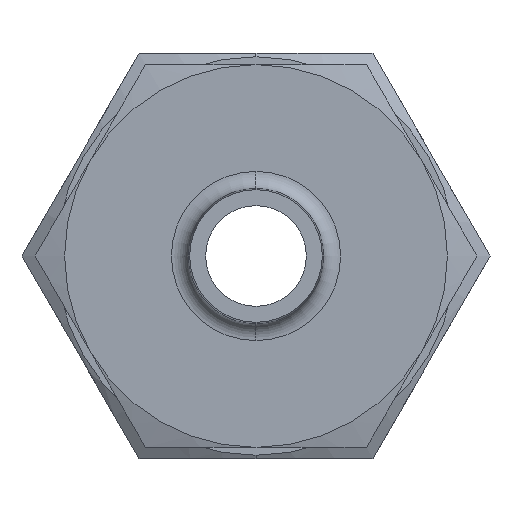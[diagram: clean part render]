
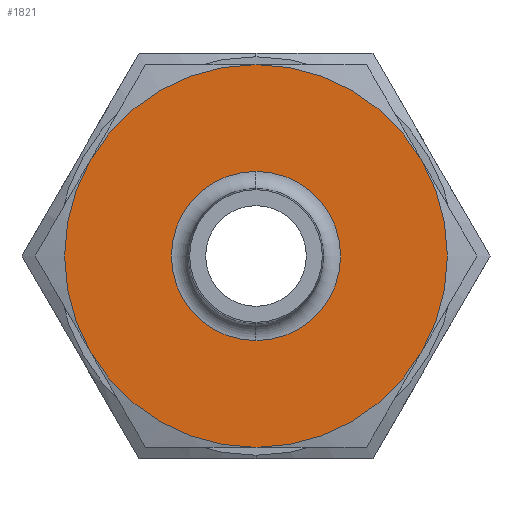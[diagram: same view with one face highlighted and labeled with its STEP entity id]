
A CAD part, left-side view. The second image highlights one B-rep face of the part: STEP entity #1821.
In plain terms, the highlighted planar face has unit normal (-1, 0, 0).
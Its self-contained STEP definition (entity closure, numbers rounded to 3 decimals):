
#88 = DIRECTION ( 'NONE',  ( 0., 0., -1. ) ) ;
#89 = DIRECTION ( 'NONE',  ( 1., 0., 0. ) ) ;
#90 = CARTESIAN_POINT ( 'NONE',  ( 0., 0., 0. ) ) ;
#91 = AXIS2_PLACEMENT_3D ( 'NONE', #90, #89, #88 ) ;
#92 = CIRCLE ( 'NONE', #91, 13.495 ) ;
#360 = CARTESIAN_POINT ( 'NONE',  ( 0., 0., 0. ) ) ;
#361 = AXIS2_PLACEMENT_3D ( 'NONE', #360, #532, #531 ) ;
#362 = CIRCLE ( 'NONE', #361, 13.495 ) ;
#363 = CARTESIAN_POINT ( 'NONE',  ( 0., 0., 0. ) ) ;
#527 = DIRECTION ( 'NONE',  ( 0., 0., 1. ) ) ;
#528 = DIRECTION ( 'NONE',  ( -1., 0., 0. ) ) ;
#529 = AXIS2_PLACEMENT_3D ( 'NONE', #363, #528, #527 ) ;
#530 = CIRCLE ( 'NONE', #529, 13.495 ) ;
#531 = DIRECTION ( 'NONE',  ( 0., 0., -1. ) ) ;
#532 = DIRECTION ( 'NONE',  ( 1., 0., 0. ) ) ;
#626 = DIRECTION ( 'NONE',  ( 1., 0., 0. ) ) ;
#627 = CARTESIAN_POINT ( 'NONE',  ( 0., 0., 0. ) ) ;
#628 = AXIS2_PLACEMENT_3D ( 'NONE', #627, #626, #671 ) ;
#629 = CIRCLE ( 'NONE', #628, 5.965 ) ;
#636 = CARTESIAN_POINT ( 'NONE',  ( 0., 0., -5.965 ) ) ;
#670 = CARTESIAN_POINT ( 'NONE',  ( 0., 0., 5.965 ) ) ;
#671 = DIRECTION ( 'NONE',  ( 0., 0., -1. ) ) ;
#843 = CARTESIAN_POINT ( 'NONE',  ( 0., 11.687, 6.748 ) ) ;
#860 = CARTESIAN_POINT ( 'NONE',  ( 0., 11.687, -6.747 ) ) ;
#951 = CARTESIAN_POINT ( 'NONE',  ( 0., 15.583, 0. ) ) ;
#952 = FACE_OUTER_BOUND ( 'NONE', #1829, .T. ) ;
#954 = DIRECTION ( 'NONE',  ( 0., 0., -1. ) ) ;
#955 = DIRECTION ( 'NONE',  ( 1., 0., 0. ) ) ;
#956 = FACE_BOUND ( 'NONE', #1822, .T. ) ;
#957 = PLANE ( 'NONE',  #978 ) ;
#961 = CARTESIAN_POINT ( 'NONE',  ( 0., -11.687, 6.747 ) ) ;
#962 = DIRECTION ( 'NONE',  ( 0., 0., -1. ) ) ;
#963 = DIRECTION ( 'NONE',  ( 1., 0., 0. ) ) ;
#964 = CARTESIAN_POINT ( 'NONE',  ( 0., 0., 0. ) ) ;
#965 = AXIS2_PLACEMENT_3D ( 'NONE', #964, #963, #962 ) ;
#966 = CIRCLE ( 'NONE', #965, 13.495 ) ;
#967 = DIRECTION ( 'NONE',  ( 0., 0., -1. ) ) ;
#968 = DIRECTION ( 'NONE',  ( 1., 0., 0. ) ) ;
#969 = CARTESIAN_POINT ( 'NONE',  ( 0., 0., 0. ) ) ;
#970 = CIRCLE ( 'NONE', #979, 5.965 ) ;
#978 = AXIS2_PLACEMENT_3D ( 'NONE', #951, #955, #954 ) ;
#979 = AXIS2_PLACEMENT_3D ( 'NONE', #969, #968, #967 ) ;
#992 = CARTESIAN_POINT ( 'NONE',  ( 0., 0., -13.495 ) ) ;
#1012 = DIRECTION ( 'NONE',  ( 0., 0., -1. ) ) ;
#1013 = DIRECTION ( 'NONE',  ( 1., 0., 0. ) ) ;
#1014 = CARTESIAN_POINT ( 'NONE',  ( 0., 0., 0. ) ) ;
#1015 = AXIS2_PLACEMENT_3D ( 'NONE', #1014, #1013, #1012 ) ;
#1016 = CIRCLE ( 'NONE', #1015, 13.495 ) ;
#1017 = DIRECTION ( 'NONE',  ( 0., 0., -1. ) ) ;
#1018 = DIRECTION ( 'NONE',  ( 1., 0., 0. ) ) ;
#1019 = AXIS2_PLACEMENT_3D ( 'NONE', #1027, #1018, #1017 ) ;
#1020 = CIRCLE ( 'NONE', #1019, 13.495 ) ;
#1027 = CARTESIAN_POINT ( 'NONE',  ( 0., 0., 0. ) ) ;
#1066 = CARTESIAN_POINT ( 'NONE',  ( 0., 0., 13.495 ) ) ;
#1152 = CARTESIAN_POINT ( 'NONE',  ( 0., -11.687, -6.748 ) ) ;
#1327 = ORIENTED_EDGE ( 'NONE', *, *, #1351, .F. ) ;
#1351 = EDGE_CURVE ( 'NONE', #1811, #1794, #92, .T. ) ;
#1593 = ORIENTED_EDGE ( 'NONE', *, *, #1594, .F. ) ;
#1594 = EDGE_CURVE ( 'NONE', #1862, #1833, #362, .T. ) ;
#1595 = ORIENTED_EDGE ( 'NONE', *, *, #1596, .T. ) ;
#1596 = EDGE_CURVE ( 'NONE', #1862, #1794, #530, .T. ) ;
#1681 = VERTEX_POINT ( 'NONE', #636 ) ;
#1686 = EDGE_CURVE ( 'NONE', #1687, #1681, #629, .T. ) ;
#1687 = VERTEX_POINT ( 'NONE', #670 ) ;
#1794 = VERTEX_POINT ( 'NONE', #843 ) ;
#1811 = VERTEX_POINT ( 'NONE', #860 ) ;
#1821 = ADVANCED_FACE ( 'NONE', ( #956, #952 ), #957, .F. ) ;
#1822 = EDGE_LOOP ( 'NONE', ( #1823, #1828 ) ) ;
#1823 = ORIENTED_EDGE ( 'NONE', *, *, #1827, .T. ) ;
#1827 = EDGE_CURVE ( 'NONE', #1681, #1687, #970, .T. ) ;
#1828 = ORIENTED_EDGE ( 'NONE', *, *, #1686, .T. ) ;
#1829 = EDGE_LOOP ( 'NONE', ( #1830, #1832, #1912, #1593, #1595, #1327 ) ) ;
#1830 = ORIENTED_EDGE ( 'NONE', *, *, #1831, .F. ) ;
#1831 = EDGE_CURVE ( 'NONE', #1901, #1811, #966, .T. ) ;
#1832 = ORIENTED_EDGE ( 'NONE', *, *, #1911, .F. ) ;
#1833 = VERTEX_POINT ( 'NONE', #961 ) ;
#1851 = VERTEX_POINT ( 'NONE', #1152 ) ;
#1862 = VERTEX_POINT ( 'NONE', #1066 ) ;
#1901 = VERTEX_POINT ( 'NONE', #992 ) ;
#1911 = EDGE_CURVE ( 'NONE', #1851, #1901, #1020, .T. ) ;
#1912 = ORIENTED_EDGE ( 'NONE', *, *, #1913, .F. ) ;
#1913 = EDGE_CURVE ( 'NONE', #1833, #1851, #1016, .T. ) ;
